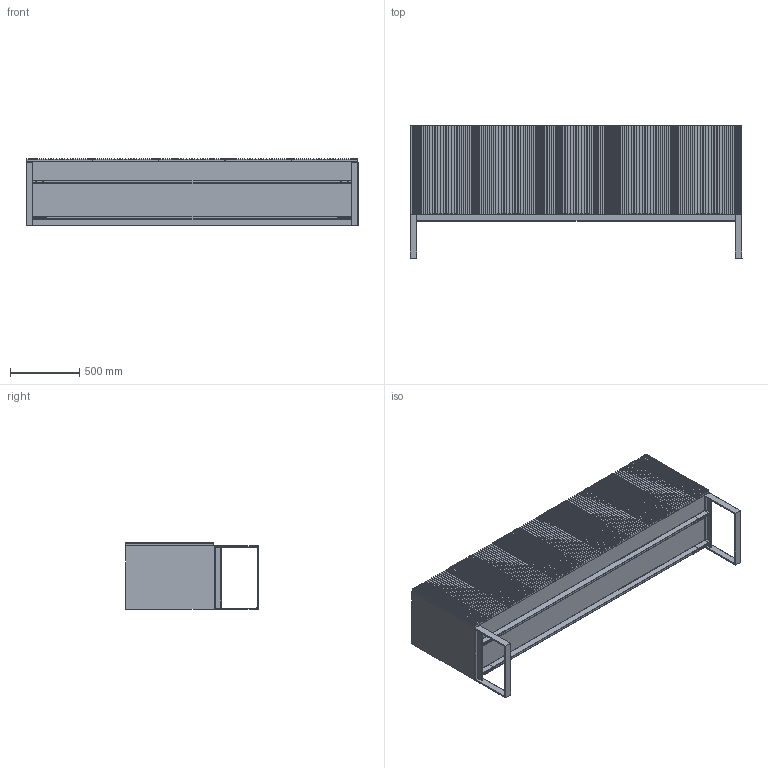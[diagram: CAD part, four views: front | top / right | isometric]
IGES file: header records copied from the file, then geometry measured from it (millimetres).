
Start section: SolidWorks IGES file using analytic representation for surfaces
Global section: file name: C:\Users\Matteo\Desktop\_Horm\_carlos\_collezione carlos\_IGS CARLOS\CARLOS cm 240X49X96H.IGS; native system: SolidWorks 2010; preprocessor: SolidWorks 2010; author: Matteo; date: 160224.162159; units: millimetre
Bounding box: 2400 x 960 x 484 mm (x, y, z)
Surface area: 14210960.8 mm2 (no closed solid volume)
Topology: 0 solids, 0 shells, 2096 faces, 15850 edges, 15842 vertices
Faces by surface type: bspline 1714, revolution 382
